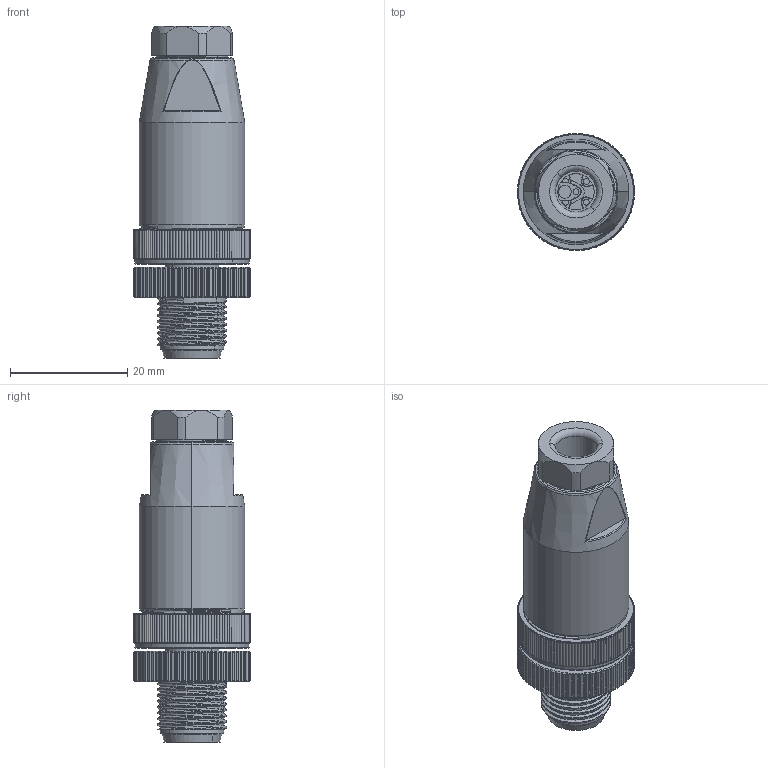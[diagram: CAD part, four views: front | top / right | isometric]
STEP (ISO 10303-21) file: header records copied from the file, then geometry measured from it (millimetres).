
FILE_DESCRIPTION((''),'2;1');
FILE_NAME('XC-M12-WK-PG7','2025-06-21T13:30:37',('lyj'),(''),'CREO PARAMETRIC BY PTC INC, 2019010','CREO PARAMETRIC BY PTC INC, 2019010','');
FILE_SCHEMA(('CONFIG_CONTROL_DESIGN'));
Products named in the file (1): XC-M12-WK-PG7
Bounding box: 20 x 20 x 56.65 mm (x, y, z)
Volume: 7925.2 mm3; surface area: 11660.7 mm2
Topology: 1 solids, 16 shells, 1533 faces, 4108 edges, 2637 vertices
Faces by surface type: cylinder 658, cone 403, plane 356, bspline 66, extrusion 28, sphere 12, torus 10
Entity records: 77103 total; most frequent: CARTESIAN_POINT 40678, ORIENTED_EDGE 8192, DIRECTION 6880, EDGE_CURVE 4096, AXIS2_PLACEMENT_3D 2758, VERTEX_POINT 2637, EDGE_LOOP 1619, FACE_OUTER_BOUND 1533
